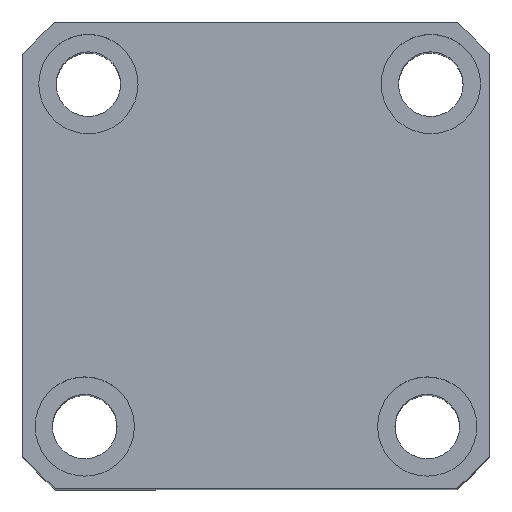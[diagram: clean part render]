
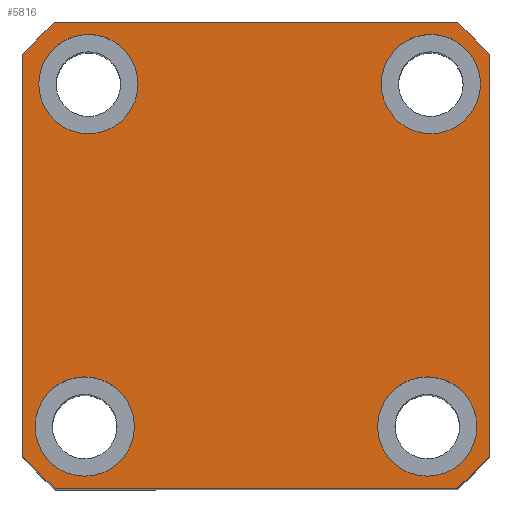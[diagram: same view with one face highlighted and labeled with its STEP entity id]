
A CAD part, top view. The second image highlights one B-rep face of the part: STEP entity #5816.
In plain terms, the highlighted planar face has unit normal (0, 0, 1) as drawn and (0, 0, -1) by its records, which use the part's own axes.
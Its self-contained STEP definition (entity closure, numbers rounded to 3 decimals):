
#150 = DIRECTION ( 'NONE',  ( -1., 0., 0. ) ) ;
#152 = ORIENTED_EDGE ( 'NONE', *, *, #6461, .F. ) ;
#317 = EDGE_CURVE ( 'NONE', #8227, #1589, #10699, .T. ) ;
#332 = EDGE_CURVE ( 'NONE', #8332, #834, #17112, .T. ) ;
#508 = VERTEX_POINT ( 'NONE', #12388 ) ;
#565 = CARTESIAN_POINT ( 'NONE',  ( 40.435, 47., 0. ) ) ;
#662 = AXIS2_PLACEMENT_3D ( 'NONE', #13646, #5343, #15026 ) ;
#834 = VERTEX_POINT ( 'NONE', #12093 ) ;
#852 = EDGE_LOOP ( 'NONE', ( #17744, #9608, #3784, #3969, #17071, #14188, #10118, #8089 ) ) ;
#971 = VERTEX_POINT ( 'NONE', #13543 ) ;
#1039 = DIRECTION ( 'NONE',  ( -1., 0., 0. ) ) ;
#1107 = AXIS2_PLACEMENT_3D ( 'NONE', #12663, #4355, #14045 ) ;
#1257 = DIRECTION ( 'NONE',  ( 0., 0., -1. ) ) ;
#1485 = DIRECTION ( 'NONE',  ( 0., 0., -1. ) ) ;
#1589 = VERTEX_POINT ( 'NONE', #9645 ) ;
#1987 = CARTESIAN_POINT ( 'NONE',  ( -24.5, 34.5, 0. ) ) ;
#2424 = AXIS2_PLACEMENT_3D ( 'NONE', #14437, #6134, #15805 ) ;
#2482 = CARTESIAN_POINT ( 'NONE',  ( -47., 47., 0. ) ) ;
#2535 = CIRCLE ( 'NONE', #2424, 62. ) ;
#2741 = EDGE_CURVE ( 'NONE', #14996, #4529, #11751, .T. ) ;
#2742 = AXIS2_PLACEMENT_3D ( 'NONE', #15157, #6873, #16522 ) ;
#2818 = FACE_BOUND ( 'NONE', #4481, .T. ) ;
#3107 = EDGE_CURVE ( 'NONE', #15115, #16286, #6309, .T. ) ;
#3259 = CARTESIAN_POINT ( 'NONE',  ( 0., 0., 0. ) ) ;
#3301 = ORIENTED_EDGE ( 'NONE', *, *, #317, .F. ) ;
#3328 = DIRECTION ( 'NONE',  ( 0., 0., -1. ) ) ;
#3352 = CARTESIAN_POINT ( 'NONE',  ( 45.23, -34.5, 0. ) ) ;
#3784 = ORIENTED_EDGE ( 'NONE', *, *, #5017, .F. ) ;
#3851 = DIRECTION ( 'NONE',  ( 0., -1., 0. ) ) ;
#3865 = EDGE_CURVE ( 'NONE', #9171, #508, #7830, .T. ) ;
#3902 = CIRCLE ( 'NONE', #662, 10. ) ;
#3969 = ORIENTED_EDGE ( 'NONE', *, *, #3865, .F. ) ;
#4055 = EDGE_LOOP ( 'NONE', ( #152, #13376 ) ) ;
#4105 = VERTEX_POINT ( 'NONE', #13210 ) ;
#4355 = DIRECTION ( 'NONE',  ( 0., 0., 1. ) ) ;
#4422 = CARTESIAN_POINT ( 'NONE',  ( -40.435, 47., 0. ) ) ;
#4423 = EDGE_CURVE ( 'NONE', #1589, #8227, #7157, .T. ) ;
#4481 = EDGE_LOOP ( 'NONE', ( #14142, #11353 ) ) ;
#4529 = VERTEX_POINT ( 'NONE', #6586 ) ;
#4630 = DIRECTION ( 'NONE',  ( 1., 0., 0. ) ) ;
#4676 = CIRCLE ( 'NONE', #2742, 10. ) ;
#4686 = DIRECTION ( 'NONE',  ( 1., 0., 0. ) ) ;
#5017 = EDGE_CURVE ( 'NONE', #508, #15115, #15155, .T. ) ;
#5339 = DIRECTION ( 'NONE',  ( 0., 0., -1. ) ) ;
#5343 = DIRECTION ( 'NONE',  ( 0., 0., -1. ) ) ;
#5816 = ADVANCED_FACE ( 'NONE', ( #8023, #15350, #6500, #2818, #17058 ), #15673, .F. ) ;
#5879 = ORIENTED_EDGE ( 'NONE', *, *, #4423, .F. ) ;
#6134 = DIRECTION ( 'NONE',  ( 0., 0., 1. ) ) ;
#6309 = LINE ( 'NONE', #14834, #16869 ) ;
#6461 = EDGE_CURVE ( 'NONE', #11725, #9388, #3902, .T. ) ;
#6500 = FACE_BOUND ( 'NONE', #14691, .T. ) ;
#6586 = CARTESIAN_POINT ( 'NONE',  ( -44.5, 34.5, 0. ) ) ;
#6873 = DIRECTION ( 'NONE',  ( 0., 0., -1. ) ) ;
#6983 = AXIS2_PLACEMENT_3D ( 'NONE', #13640, #5339, #15021 ) ;
#7157 = CIRCLE ( 'NONE', #17380, 10. ) ;
#7500 = CIRCLE ( 'NONE', #10289, 10. ) ;
#7510 = CARTESIAN_POINT ( 'NONE',  ( 0., 0., 0. ) ) ;
#7830 = LINE ( 'NONE', #16719, #11971 ) ;
#8023 = FACE_BOUND ( 'NONE', #15509, .T. ) ;
#8028 = EDGE_CURVE ( 'NONE', #971, #4105, #8869, .T. ) ;
#8089 = ORIENTED_EDGE ( 'NONE', *, *, #13230, .F. ) ;
#8227 = VERTEX_POINT ( 'NONE', #16451 ) ;
#8332 = VERTEX_POINT ( 'NONE', #12443 ) ;
#8469 = DIRECTION ( 'NONE',  ( 1., 0., 0. ) ) ;
#8869 = LINE ( 'NONE', #2482, #16193 ) ;
#8921 = DIRECTION ( 'NONE',  ( 1., 0., 0. ) ) ;
#9025 = ORIENTED_EDGE ( 'NONE', *, *, #15545, .F. ) ;
#9105 = CARTESIAN_POINT ( 'NONE',  ( -47., 47., 0. ) ) ;
#9171 = VERTEX_POINT ( 'NONE', #14237 ) ;
#9319 = EDGE_CURVE ( 'NONE', #4105, #9171, #13823, .T. ) ;
#9331 = DIRECTION ( 'NONE',  ( 0., 0., -1. ) ) ;
#9388 = VERTEX_POINT ( 'NONE', #3352 ) ;
#9608 = ORIENTED_EDGE ( 'NONE', *, *, #3107, .F. ) ;
#9645 = CARTESIAN_POINT ( 'NONE',  ( 44.5, 34.5, 0. ) ) ;
#9765 = EDGE_CURVE ( 'NONE', #4529, #14996, #11671, .T. ) ;
#9781 = CARTESIAN_POINT ( 'NONE',  ( -33.77, -34.5, 0. ) ) ;
#10118 = ORIENTED_EDGE ( 'NONE', *, *, #12668, .F. ) ;
#10225 = CARTESIAN_POINT ( 'NONE',  ( 0., 0., 0. ) ) ;
#10289 = AXIS2_PLACEMENT_3D ( 'NONE', #9781, #1485, #11177 ) ;
#10595 = CIRCLE ( 'NONE', #1107, 62. ) ;
#10699 = CIRCLE ( 'NONE', #11700, 10. ) ;
#11177 = DIRECTION ( 'NONE',  ( -1., 0., 0. ) ) ;
#11353 = ORIENTED_EDGE ( 'NONE', *, *, #2741, .F. ) ;
#11624 = CARTESIAN_POINT ( 'NONE',  ( -34.5, 34.5, 0. ) ) ;
#11671 = CIRCLE ( 'NONE', #14086, 10. ) ;
#11700 = AXIS2_PLACEMENT_3D ( 'NONE', #13883, #1257, #150 ) ;
#11725 = VERTEX_POINT ( 'NONE', #14819 ) ;
#11751 = CIRCLE ( 'NONE', #6983, 10. ) ;
#11971 = VECTOR ( 'NONE', #8469, 1000. ) ;
#12093 = CARTESIAN_POINT ( 'NONE',  ( -23.77, -34.5, 0. ) ) ;
#12102 = LINE ( 'NONE', #9105, #15735 ) ;
#12388 = CARTESIAN_POINT ( 'NONE',  ( 40.435, -47., 0. ) ) ;
#12443 = CARTESIAN_POINT ( 'NONE',  ( -43.77, -34.5, 0. ) ) ;
#12663 = CARTESIAN_POINT ( 'NONE',  ( 0., 0., 0. ) ) ;
#12668 = EDGE_CURVE ( 'NONE', #15851, #971, #10595, .T. ) ;
#12937 = DIRECTION ( 'NONE',  ( 0., 0., 1. ) ) ;
#12993 = DIRECTION ( 'NONE',  ( 0., 0., 1. ) ) ;
#13013 = DIRECTION ( 'NONE',  ( -1., 0., 0. ) ) ;
#13108 = ORIENTED_EDGE ( 'NONE', *, *, #332, .F. ) ;
#13210 = CARTESIAN_POINT ( 'NONE',  ( -47., -40.435, 0. ) ) ;
#13230 = EDGE_CURVE ( 'NONE', #16226, #15851, #12102, .T. ) ;
#13376 = ORIENTED_EDGE ( 'NONE', *, *, #17119, .F. ) ;
#13543 = CARTESIAN_POINT ( 'NONE',  ( -47., 40.435, 0. ) ) ;
#13640 = CARTESIAN_POINT ( 'NONE',  ( -34.5, 34.5, 0. ) ) ;
#13646 = CARTESIAN_POINT ( 'NONE',  ( 35.23, -34.5, 0. ) ) ;
#13670 = DIRECTION ( 'NONE',  ( -1., 0., 0. ) ) ;
#13694 = DIRECTION ( 'NONE',  ( 0., 0., -1. ) ) ;
#13714 = CARTESIAN_POINT ( 'NONE',  ( -33.77, -34.5, 0. ) ) ;
#13823 = CIRCLE ( 'NONE', #15344, 62. ) ;
#13883 = CARTESIAN_POINT ( 'NONE',  ( 34.5, 34.5, 0. ) ) ;
#14045 = DIRECTION ( 'NONE',  ( 1., 0., 0. ) ) ;
#14086 = AXIS2_PLACEMENT_3D ( 'NONE', #11624, #3328, #13013 ) ;
#14142 = ORIENTED_EDGE ( 'NONE', *, *, #9765, .F. ) ;
#14188 = ORIENTED_EDGE ( 'NONE', *, *, #8028, .F. ) ;
#14237 = CARTESIAN_POINT ( 'NONE',  ( -40.435, -47., 0. ) ) ;
#14437 = CARTESIAN_POINT ( 'NONE',  ( 0., 0., 0. ) ) ;
#14569 = CARTESIAN_POINT ( 'NONE',  ( 47., -40.435, 0. ) ) ;
#14691 = EDGE_LOOP ( 'NONE', ( #3301, #5879 ) ) ;
#14819 = CARTESIAN_POINT ( 'NONE',  ( 25.23, -34.5, 0. ) ) ;
#14834 = CARTESIAN_POINT ( 'NONE',  ( 47., 47., 0. ) ) ;
#14996 = VERTEX_POINT ( 'NONE', #1987 ) ;
#15021 = DIRECTION ( 'NONE',  ( -1., 0., 0. ) ) ;
#15026 = DIRECTION ( 'NONE',  ( -1., 0., 0. ) ) ;
#15115 = VERTEX_POINT ( 'NONE', #14569 ) ;
#15155 = CIRCLE ( 'NONE', #15218, 62. ) ;
#15157 = CARTESIAN_POINT ( 'NONE',  ( 35.23, -34.5, 0. ) ) ;
#15218 = AXIS2_PLACEMENT_3D ( 'NONE', #3259, #12937, #4630 ) ;
#15344 = AXIS2_PLACEMENT_3D ( 'NONE', #7510, #17148, #8921 ) ;
#15350 = FACE_BOUND ( 'NONE', #4055, .T. ) ;
#15509 = EDGE_LOOP ( 'NONE', ( #13108, #9025 ) ) ;
#15545 = EDGE_CURVE ( 'NONE', #834, #8332, #7500, .T. ) ;
#15673 = PLANE ( 'NONE',  #15801 ) ;
#15735 = VECTOR ( 'NONE', #17318, 1000. ) ;
#15801 = AXIS2_PLACEMENT_3D ( 'NONE', #10225, #12993, #4686 ) ;
#15805 = DIRECTION ( 'NONE',  ( 1., 0., 0. ) ) ;
#15851 = VERTEX_POINT ( 'NONE', #4422 ) ;
#16184 = DIRECTION ( 'NONE',  ( 0., 1., 0. ) ) ;
#16193 = VECTOR ( 'NONE', #3851, 1000. ) ;
#16226 = VERTEX_POINT ( 'NONE', #565 ) ;
#16286 = VERTEX_POINT ( 'NONE', #17187 ) ;
#16451 = CARTESIAN_POINT ( 'NONE',  ( 24.5, 34.5, 0. ) ) ;
#16522 = DIRECTION ( 'NONE',  ( -1., 0., 0. ) ) ;
#16719 = CARTESIAN_POINT ( 'NONE',  ( -47., -47., 0. ) ) ;
#16869 = VECTOR ( 'NONE', #16184, 1000. ) ;
#17058 = FACE_OUTER_BOUND ( 'NONE', #852, .T. ) ;
#17071 = ORIENTED_EDGE ( 'NONE', *, *, #9319, .F. ) ;
#17112 = CIRCLE ( 'NONE', #17193, 10. ) ;
#17119 = EDGE_CURVE ( 'NONE', #9388, #11725, #4676, .T. ) ;
#17148 = DIRECTION ( 'NONE',  ( 0., 0., 1. ) ) ;
#17187 = CARTESIAN_POINT ( 'NONE',  ( 47., 40.435, 0. ) ) ;
#17193 = AXIS2_PLACEMENT_3D ( 'NONE', #13714, #13694, #13670 ) ;
#17318 = DIRECTION ( 'NONE',  ( -1., 0., 0. ) ) ;
#17380 = AXIS2_PLACEMENT_3D ( 'NONE', #17529, #9331, #1039 ) ;
#17529 = CARTESIAN_POINT ( 'NONE',  ( 34.5, 34.5, 0. ) ) ;
#17675 = EDGE_CURVE ( 'NONE', #16286, #16226, #2535, .T. ) ;
#17744 = ORIENTED_EDGE ( 'NONE', *, *, #17675, .F. ) ;
